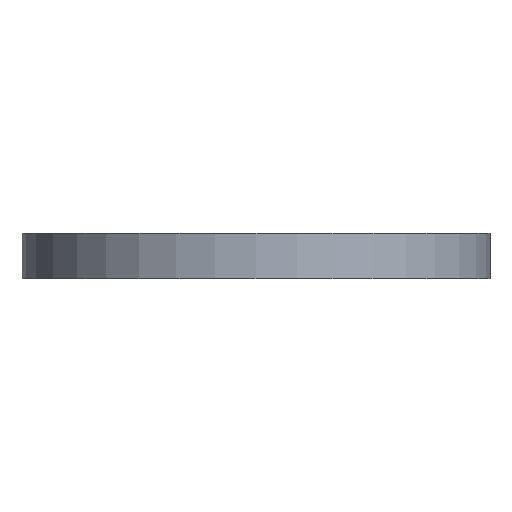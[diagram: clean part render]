
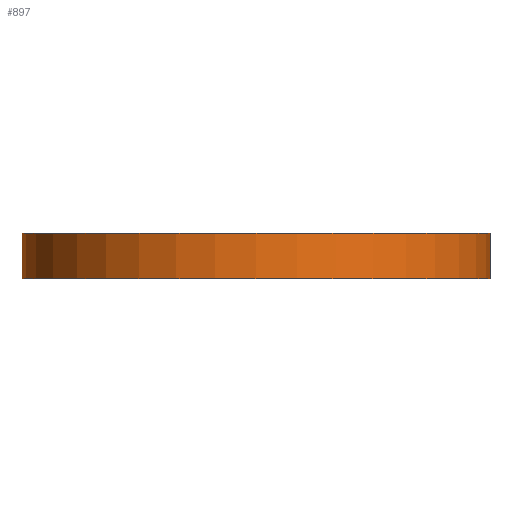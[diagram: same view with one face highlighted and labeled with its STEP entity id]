
A CAD part, front view. The second image highlights one B-rep face of the part: STEP entity #897.
In plain terms, the highlighted cylindrical face has radius 342.5 mm (diameter 685 mm), a partial arc.
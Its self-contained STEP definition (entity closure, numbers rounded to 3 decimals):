
#45 = VERTEX_POINT ( 'NONE', #1008 ) ;
#65 = CARTESIAN_POINT ( 'NONE',  ( -342.5, 0., 0. ) ) ;
#80 = CARTESIAN_POINT ( 'NONE',  ( -342.5, 0., -66. ) ) ;
#230 = EDGE_CURVE ( 'NONE', #1503, #1028, #1049, .T. ) ;
#343 = EDGE_CURVE ( 'NONE', #45, #1483, #1191, .T. ) ;
#574 = DIRECTION ( 'NONE',  ( 0., 0., 1. ) ) ;
#575 = CARTESIAN_POINT ( 'NONE',  ( -342.5, 0., -150. ) ) ;
#577 = LINE ( 'NONE', #575, #1123 ) ;
#631 = EDGE_CURVE ( 'NONE', #45, #1028, #839, .T. ) ;
#654 = CARTESIAN_POINT ( 'NONE',  ( 342.5, 0., 0. ) ) ;
#717 = DIRECTION ( 'NONE',  ( 1., 0., 0. ) ) ;
#718 = DIRECTION ( 'NONE',  ( 0., 0., 1. ) ) ;
#719 = CARTESIAN_POINT ( 'NONE',  ( 0., 0., -150. ) ) ;
#720 = CYLINDRICAL_SURFACE ( 'NONE', #1342, 342.5 ) ;
#721 = FACE_OUTER_BOUND ( 'NONE', #1343, .T. ) ;
#785 = AXIS2_PLACEMENT_3D ( 'NONE', #974, #973, #972 ) ;
#837 = DIRECTION ( 'NONE',  ( 0., 0., 1. ) ) ;
#838 = CARTESIAN_POINT ( 'NONE',  ( 342.5, 0., -150. ) ) ;
#839 = LINE ( 'NONE', #838, #1431 ) ;
#897 = ADVANCED_FACE ( 'NONE', ( #721 ), #720, .T. ) ;
#909 = DIRECTION ( 'NONE',  ( -1., 0., 0. ) ) ;
#910 = DIRECTION ( 'NONE',  ( 0., 0., -1. ) ) ;
#911 = CARTESIAN_POINT ( 'NONE',  ( 0., 0., -66. ) ) ;
#972 = DIRECTION ( 'NONE',  ( 1., 0., 0. ) ) ;
#973 = DIRECTION ( 'NONE',  ( 0., 0., 1. ) ) ;
#974 = CARTESIAN_POINT ( 'NONE',  ( 0., 0., 0. ) ) ;
#1008 = CARTESIAN_POINT ( 'NONE',  ( 342.5, 0., -66. ) ) ;
#1028 = VERTEX_POINT ( 'NONE', #654 ) ;
#1049 = CIRCLE ( 'NONE', #785, 342.5 ) ;
#1109 = EDGE_CURVE ( 'NONE', #1483, #1503, #577, .T. ) ;
#1123 = VECTOR ( 'NONE', #574, 1000. ) ;
#1191 = CIRCLE ( 'NONE', #1529, 342.5 ) ;
#1342 = AXIS2_PLACEMENT_3D ( 'NONE', #719, #718, #717 ) ;
#1343 = EDGE_LOOP ( 'NONE', ( #1637, #1638, #1640, #1641 ) ) ;
#1431 = VECTOR ( 'NONE', #837, 1000. ) ;
#1483 = VERTEX_POINT ( 'NONE', #80 ) ;
#1503 = VERTEX_POINT ( 'NONE', #65 ) ;
#1529 = AXIS2_PLACEMENT_3D ( 'NONE', #911, #910, #909 ) ;
#1637 = ORIENTED_EDGE ( 'NONE', *, *, #1109, .F. ) ;
#1638 = ORIENTED_EDGE ( 'NONE', *, *, #343, .F. ) ;
#1640 = ORIENTED_EDGE ( 'NONE', *, *, #631, .T. ) ;
#1641 = ORIENTED_EDGE ( 'NONE', *, *, #230, .F. ) ;
